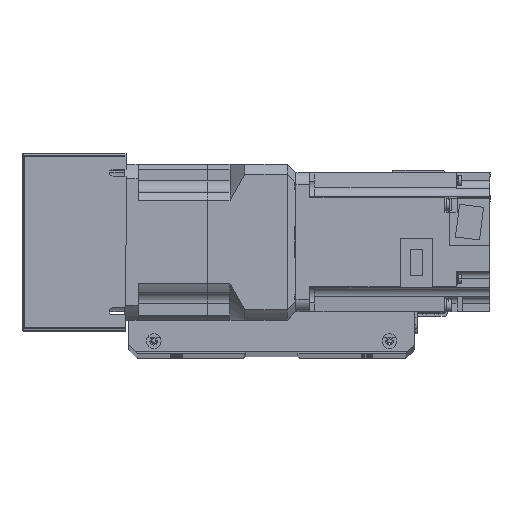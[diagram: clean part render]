
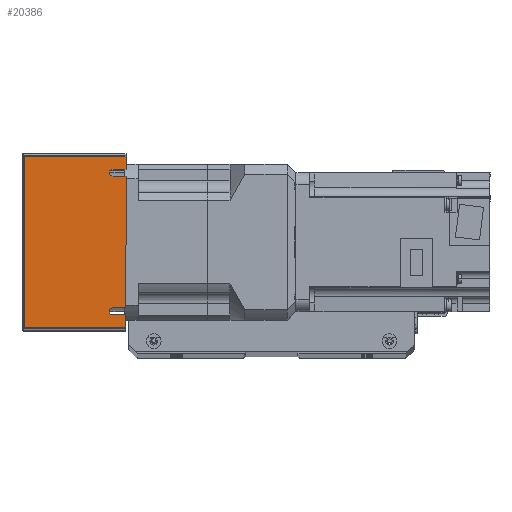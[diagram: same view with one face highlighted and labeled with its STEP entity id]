
A CAD part, top view. The second image highlights one B-rep face of the part: STEP entity #20386.
In plain terms, the highlighted planar face has unit normal (0, 0, 1) as drawn and (-1, 0, 0) by its records, which use the part's own axes.
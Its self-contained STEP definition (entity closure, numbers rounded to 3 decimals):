
#599=PLANE('',#22236);
#1687=LINE('',#32767,#3347);
#1693=LINE('',#32781,#3353);
#1705=LINE('',#32808,#3365);
#1715=LINE('',#32830,#3375);
#1723=LINE('',#32850,#3383);
#1724=LINE('',#32852,#3384);
#1725=LINE('',#32854,#3385);
#1726=LINE('',#32856,#3386);
#1727=LINE('',#32857,#3387);
#1728=LINE('',#32859,#3388);
#3347=VECTOR('',#26540,10.);
#3353=VECTOR('',#26550,10.);
#3365=VECTOR('',#26568,10.);
#3375=VECTOR('',#26582,10.);
#3383=VECTOR('',#26604,10.);
#3384=VECTOR('',#26605,10.);
#3385=VECTOR('',#26606,10.);
#3386=VECTOR('',#26607,10.);
#3387=VECTOR('',#26608,10.);
#3388=VECTOR('',#26611,10.);
#5437=FACE_OUTER_BOUND('',#6933,.T.);
#6933=EDGE_LOOP('',(#16430,#16431,#16432,#16433,#16434,#16435,#16436,#16437,
#16438,#16439,#16440,#16441));
#8397=CIRCLE('',#22231,2.);
#8401=CIRCLE('',#22237,2.);
#9862=VERTEX_POINT('',#32764);
#9863=VERTEX_POINT('',#32766);
#9868=VERTEX_POINT('',#32779);
#9869=VERTEX_POINT('',#32780);
#9880=VERTEX_POINT('',#32806);
#9881=VERTEX_POINT('',#32807);
#9890=VERTEX_POINT('',#32827);
#9891=VERTEX_POINT('',#32829);
#9896=VERTEX_POINT('',#32849);
#9897=VERTEX_POINT('',#32851);
#9898=VERTEX_POINT('',#32853);
#9899=VERTEX_POINT('',#32855);
#12241=EDGE_CURVE('',#9863,#9862,#1687,.T.);
#12247=EDGE_CURVE('',#9868,#9869,#1693,.T.);
#12259=EDGE_CURVE('',#9880,#9881,#1705,.T.);
#12269=EDGE_CURVE('',#9891,#9890,#1715,.T.);
#12271=EDGE_CURVE('',#9869,#9863,#8397,.T.);
#12281=EDGE_CURVE('',#9896,#9862,#1723,.T.);
#12282=EDGE_CURVE('',#9897,#9896,#1724,.T.);
#12283=EDGE_CURVE('',#9898,#9897,#1725,.T.);
#12284=EDGE_CURVE('',#9899,#9898,#1726,.T.);
#12285=EDGE_CURVE('',#9880,#9899,#1727,.T.);
#12286=EDGE_CURVE('',#9881,#9891,#8401,.T.);
#12287=EDGE_CURVE('',#9868,#9890,#1728,.T.);
#16430=ORIENTED_EDGE('',*,*,#12241,.T.);
#16431=ORIENTED_EDGE('',*,*,#12281,.F.);
#16432=ORIENTED_EDGE('',*,*,#12282,.F.);
#16433=ORIENTED_EDGE('',*,*,#12283,.F.);
#16434=ORIENTED_EDGE('',*,*,#12284,.F.);
#16435=ORIENTED_EDGE('',*,*,#12285,.F.);
#16436=ORIENTED_EDGE('',*,*,#12259,.T.);
#16437=ORIENTED_EDGE('',*,*,#12286,.T.);
#16438=ORIENTED_EDGE('',*,*,#12269,.T.);
#16439=ORIENTED_EDGE('',*,*,#12287,.F.);
#16440=ORIENTED_EDGE('',*,*,#12247,.T.);
#16441=ORIENTED_EDGE('',*,*,#12271,.T.);
#20386=ADVANCED_FACE('',(#5437),#599,.T.);
#22231=AXIS2_PLACEMENT_3D('',#32833,#26586,#26587);
#22236=AXIS2_PLACEMENT_3D('',#32848,#26602,#26603);
#22237=AXIS2_PLACEMENT_3D('',#32858,#26609,#26610);
#26540=DIRECTION('',(0.,0.,1.));
#26550=DIRECTION('',(0.,0.,-1.));
#26568=DIRECTION('',(0.,0.,-1.));
#26582=DIRECTION('',(0.,0.,1.));
#26586=DIRECTION('center_axis',(1.,0.,0.));
#26587=DIRECTION('ref_axis',(0.,0.,-1.));
#26602=DIRECTION('center_axis',(-1.,0.,0.));
#26603=DIRECTION('ref_axis',(0.,-1.,0.));
#26604=DIRECTION('',(0.,-1.,0.));
#26605=DIRECTION('',(0.,0.,1.));
#26606=DIRECTION('',(0.,1.,0.));
#26607=DIRECTION('',(0.,0.,-1.));
#26608=DIRECTION('',(0.,-1.,0.));
#26609=DIRECTION('center_axis',(1.,0.,0.));
#26610=DIRECTION('ref_axis',(0.,0.,-1.));
#26611=DIRECTION('',(0.,-1.,0.));
#32764=CARTESIAN_POINT('',(-120.5,42.,30.));
#32766=CARTESIAN_POINT('',(-120.5,42.,22.5));
#32767=CARTESIAN_POINT('',(-120.5,42.,16.304));
#32779=CARTESIAN_POINT('',(-120.5,38.,30.));
#32780=CARTESIAN_POINT('',(-120.5,38.,22.5));
#32781=CARTESIAN_POINT('',(-120.5,38.,11.25));
#32806=CARTESIAN_POINT('',(-120.5,-42.,30.));
#32807=CARTESIAN_POINT('',(-120.5,-42.,22.5));
#32808=CARTESIAN_POINT('',(-120.5,-42.,11.25));
#32827=CARTESIAN_POINT('',(-120.5,-38.,30.));
#32829=CARTESIAN_POINT('',(-120.5,-38.,22.5));
#32830=CARTESIAN_POINT('',(-120.5,-38.,16.169));
#32833=CARTESIAN_POINT('Origin',(-120.5,40.,22.5));
#32848=CARTESIAN_POINT('Origin',(-120.5,51.,0.));
#32849=CARTESIAN_POINT('',(-120.5,50.,30.));
#32850=CARTESIAN_POINT('',(-120.5,-51.,30.));
#32851=CARTESIAN_POINT('',(-120.5,50.,-29.));
#32852=CARTESIAN_POINT('',(-120.5,50.,0.));
#32853=CARTESIAN_POINT('',(-120.5,-50.,-29.));
#32854=CARTESIAN_POINT('',(-120.5,25.5,-29.));
#32855=CARTESIAN_POINT('',(-120.5,-50.,30.));
#32856=CARTESIAN_POINT('',(-120.5,-50.,0.));
#32857=CARTESIAN_POINT('',(-120.5,-51.,30.));
#32858=CARTESIAN_POINT('Origin',(-120.5,-40.,22.5));
#32859=CARTESIAN_POINT('',(-120.5,-51.,30.));
